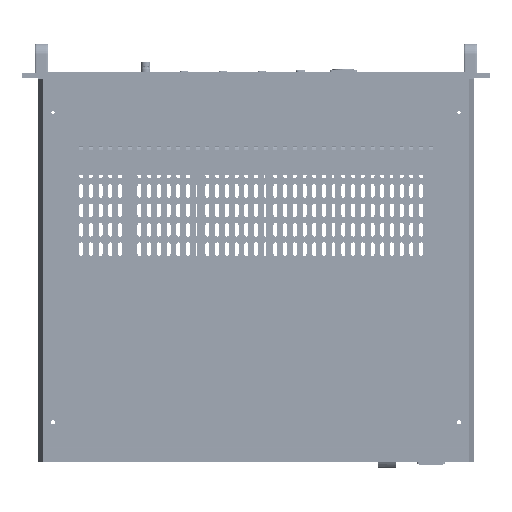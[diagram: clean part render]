
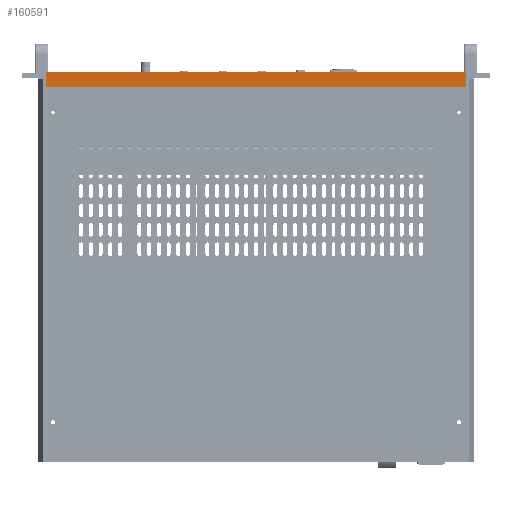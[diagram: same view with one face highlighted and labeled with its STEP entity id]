
A CAD part, front view. The second image highlights one B-rep face of the part: STEP entity #160591.
In plain terms, the highlighted planar face has unit normal (0, -1, 0).
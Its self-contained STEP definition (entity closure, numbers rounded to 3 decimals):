
#10675 = DIRECTION ( 'NONE',  ( 0., 0., -1. ) ) ;
#23799 = PLANE ( 'NONE',  #132176 ) ;
#38129 = EDGE_CURVE ( 'NONE', #162560, #153403, #125974, .T. ) ;
#39618 = FACE_OUTER_BOUND ( 'NONE', #52218, .T. ) ;
#50886 = LINE ( 'NONE', #96369, #71767 ) ;
#51032 = VECTOR ( 'NONE', #75174, 1000. ) ;
#51122 = DIRECTION ( 'NONE',  ( 0., 0., 1. ) ) ;
#52218 = EDGE_LOOP ( 'NONE', ( #155430, #106188, #159682, #153010 ) ) ;
#53639 = EDGE_CURVE ( 'NONE', #153403, #107689, #50886, .T. ) ;
#71767 = VECTOR ( 'NONE', #95227, 1000. ) ;
#75174 = DIRECTION ( 'NONE',  ( -1., 0., 0. ) ) ;
#79200 = VECTOR ( 'NONE', #129680, 1000. ) ;
#90691 = EDGE_CURVE ( 'NONE', #170498, #107689, #139581, .T. ) ;
#94590 = CARTESIAN_POINT ( 'NONE',  ( 315.83, 186.911, 603.016 ) ) ;
#95227 = DIRECTION ( 'NONE',  ( 0., 0., -1. ) ) ;
#96369 = CARTESIAN_POINT ( 'NONE',  ( -116.17, 186.911, 588.216 ) ) ;
#102158 = CARTESIAN_POINT ( 'NONE',  ( 315.83, 186.911, 588.216 ) ) ;
#104058 = CARTESIAN_POINT ( 'NONE',  ( 315.83, 186.911, 588.216 ) ) ;
#106188 = ORIENTED_EDGE ( 'NONE', *, *, #90691, .F. ) ;
#107689 = VERTEX_POINT ( 'NONE', #145944 ) ;
#114594 = CARTESIAN_POINT ( 'NONE',  ( 315.83, 186.911, 588.216 ) ) ;
#119416 = CARTESIAN_POINT ( 'NONE',  ( 315.83, 186.911, 588.216 ) ) ;
#123121 = CARTESIAN_POINT ( 'NONE',  ( -116.17, 186.911, 603.016 ) ) ;
#125974 = LINE ( 'NONE', #168131, #51032 ) ;
#129680 = DIRECTION ( 'NONE',  ( -1., 0., 0. ) ) ;
#131384 = DIRECTION ( 'NONE',  ( 0., 1., 0. ) ) ;
#132176 = AXIS2_PLACEMENT_3D ( 'NONE', #104058, #131384, #51122 ) ;
#139581 = LINE ( 'NONE', #114594, #79200 ) ;
#145944 = CARTESIAN_POINT ( 'NONE',  ( -116.17, 186.911, 588.216 ) ) ;
#147533 = VECTOR ( 'NONE', #10675, 1000. ) ;
#153010 = ORIENTED_EDGE ( 'NONE', *, *, #38129, .T. ) ;
#153403 = VERTEX_POINT ( 'NONE', #123121 ) ;
#155430 = ORIENTED_EDGE ( 'NONE', *, *, #53639, .T. ) ;
#159682 = ORIENTED_EDGE ( 'NONE', *, *, #171360, .F. ) ;
#160000 = LINE ( 'NONE', #119416, #147533 ) ;
#160591 = ADVANCED_FACE ( 'NONE', ( #39618 ), #23799, .F. ) ;
#162560 = VERTEX_POINT ( 'NONE', #94590 ) ;
#168131 = CARTESIAN_POINT ( 'NONE',  ( 315.83, 186.911, 603.016 ) ) ;
#170498 = VERTEX_POINT ( 'NONE', #102158 ) ;
#171360 = EDGE_CURVE ( 'NONE', #162560, #170498, #160000, .T. ) ;
